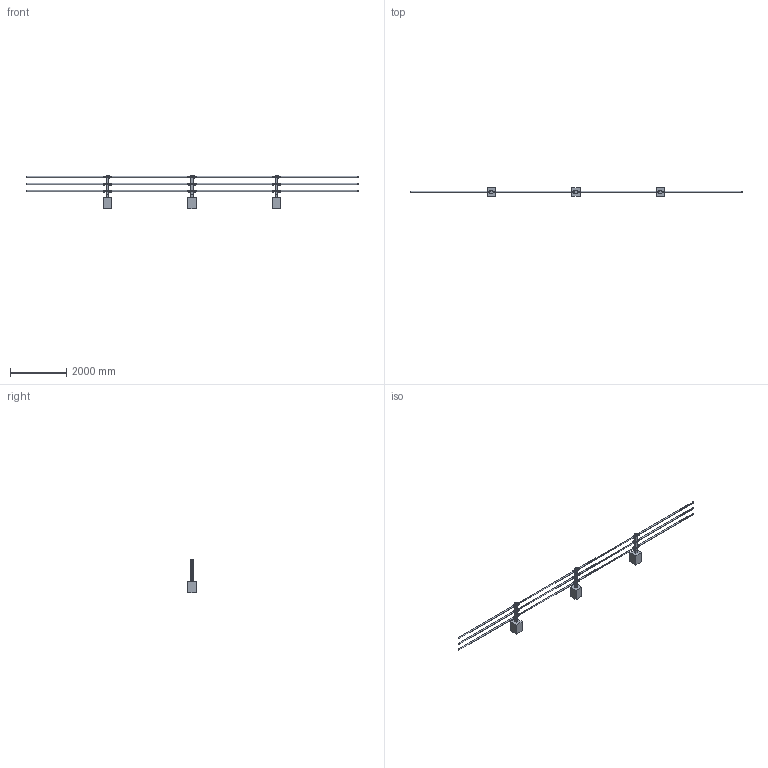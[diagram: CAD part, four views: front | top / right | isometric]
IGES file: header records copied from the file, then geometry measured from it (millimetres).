
Global section: file name: 07ロッドフェンスRF12-勾配コーナータイプ,35HAutoCAD 2025 - 日本語 (Japanese; native system: ); preprocessor: Autodesk Translation Framework DWG producer (atf_dwg_producer); organization: unknown; date: 20260416.151240; units: millimetre
Bounding box: 11780 x 300 x 1200 mm (x, y, z)
Volume: 139192432.3 mm3; surface area: 15953100.4 mm2
Topology: 309 solids, 309 shells, 5616 faces, 13896 edges, 8889 vertices
Faces by surface type: bspline 5616
